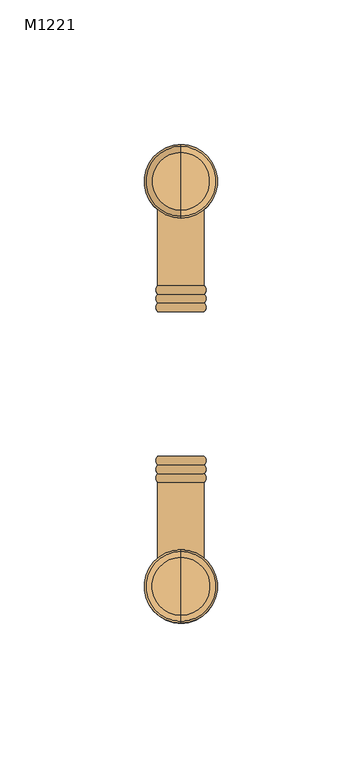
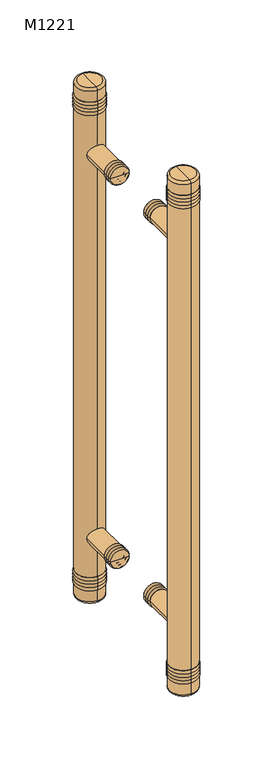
"""IFC4 building model written with IfcOpenShell, lengths in millimetres: door geometry, 双面嵌板木门 2 : M1221."""

from ifc_helpers import new_model, si_unit, point, frame, origin, place, context, project, spatial, circle_curve, ellipse_curve, trimmed, source, transform, mapped, element, save
from ifc_brep_helpers import plane_surface, cylinder_surface, revolved_surface, advanced_brep


def m1221_b3a166ca(model_context):
    return source(origin(), model_context, "Body", "AdvancedBrep", [
        advanced_brep(
        [(-80.0, 100.0, 1075.0), (-88.0, 100.0, 1075.0), (-72.0, 100.0, 1075.0), (-88.0, 109.0, 1075.0), (-80.0, 109.0, 1075.0), (-72.0, 109.0, 1075.0), (-88.0, 106.0, 1075.0), (-72.0, 106.0, 1075.0), (-88.0, 103.0, 1075.0), (-72.0, 103.0, 1075.0)],
        [
            (0, 1),
            (1, 2, circle_curve(frame((-80.0, 100.0, 1075.0), z_axis=(0.0, -1.0, 0.0), x_axis=(1.0, 0.0, 0.0)), 8.0)),
            (2, 0),
            (2, 1, circle_curve(frame((-80.0, 100.0, 1075.0), z_axis=(0.0, -1.0, 0.0), x_axis=(1.0, 0.0, 0.0)), 8.0)),
            (3, 4),
            (4, 5),
            (5, 3, circle_curve(frame((-80.0, 109.0, 1075.0), z_axis=(0.0, 1.0, 0.0), x_axis=(1.0, 0.0, 0.0)), 8.0)),
            (3, 5, circle_curve(frame((-80.0, 109.0, 1075.0), z_axis=(0.0, 1.0, 0.0), x_axis=(1.0, 0.0, 0.0)), 8.0)),
            (6, 3, circle_curve(frame((-86.6771243, 107.5, 1075.0), z_axis=(0.0, 0.0, -1.0), x_axis=(-1.0, 0.0, 0.0)), 2.0)),
            (5, 7, circle_curve(frame((-73.3228757, 107.5, 1075.0), z_axis=(0.0, 0.0, -1.0), x_axis=(1.0, 0.0, 0.0)), 2.0)),
            (7, 6, circle_curve(frame((-80.0, 106.0, 1075.0), z_axis=(0.0, 1.0, 0.0), x_axis=(1.0, 0.0, 0.0)), 8.0)),
            (6, 7, circle_curve(frame((-80.0, 106.0, 1075.0), z_axis=(0.0, 1.0, 0.0), x_axis=(1.0, 0.0, 0.0)), 8.0)),
            (8, 6, circle_curve(frame((-86.6771243, 104.5, 1075.0), z_axis=(0.0, 0.0, -1.0), x_axis=(-1.0, 0.0, 0.0)), 2.0)),
            (7, 9, circle_curve(frame((-73.3228757, 104.5, 1075.0), z_axis=(0.0, 0.0, -1.0), x_axis=(1.0, 0.0, 0.0)), 2.0)),
            (9, 8, circle_curve(frame((-80.0, 103.0, 1075.0), z_axis=(0.0, 1.0, 0.0), x_axis=(1.0, 0.0, 0.0)), 8.0)),
            (8, 9, circle_curve(frame((-80.0, 103.0, 1075.0), z_axis=(0.0, 1.0, 0.0), x_axis=(1.0, 0.0, 0.0)), 8.0)),
            (1, 8, circle_curve(frame((-86.6771243, 101.5, 1075.0), z_axis=(0.0, 0.0, -1.0), x_axis=(-1.0, 0.0, 0.0)), 2.0)),
            (9, 2, circle_curve(frame((-73.3228757, 101.5, 1075.0), z_axis=(0.0, 0.0, -1.0), x_axis=(1.0, 0.0, 0.0)), 2.0)),
        ],
        [
            plane_surface(frame((-80.0, 100.0, 1075.0), z_axis=(0.0, -1.0, 0.0), x_axis=(1.0, 0.0, 0.0))),
            plane_surface(frame((-80.0, 109.0, 1075.0), z_axis=(0.0, 1.0, 0.0), x_axis=(1.0, 0.0, 0.0))),
            revolved_surface(trimmed(ellipse_curve(frame((-73.3228757, 107.5, 1075.0), z_axis=(0.0, 0.0, -1.0), x_axis=(1.0, 0.0, 0.0)), 2.0, 2.0), [point((-72.0, 109.0, 1075.0))], [point((-72.0, 106.0, 1075.0))], True, "CARTESIAN"), (-80.0, -40.0, 1075.0), (0.0, -1.0, 0.0)),
            revolved_surface(trimmed(ellipse_curve(frame((-73.3228757, 104.5, 1075.0), z_axis=(0.0, 0.0, -1.0), x_axis=(1.0, 0.0, 0.0)), 2.0, 2.0), [point((-72.0, 106.0, 1075.0))], [point((-72.0, 103.0, 1075.0))], True, "CARTESIAN"), (-80.0, -40.0, 1075.0), (0.0, -1.0, 0.0)),
            revolved_surface(trimmed(ellipse_curve(frame((-73.3228757, 101.5, 1075.0), z_axis=(0.0, 0.0, -1.0), x_axis=(1.0, 0.0, 0.0)), 2.0, 2.0), [point((-72.0, 103.0, 1075.0))], [point((-72.0, 100.0, 1075.0))], True, "CARTESIAN"), (-80.0, -40.0, 1075.0), (0.0, -1.0, 0.0)),
        ],
        [
            (0, [[1, 2, 3]]),
            (0, [[-3, 4, -1]]),
            (1, [[5, 6, 7]]),
            (1, [[-6, -5, 8]]),
            (2, [[9, -7, 10, 11]]),
            (2, [[-10, -8, -9, 12]]),
            (3, [[13, -11, 14, 15]]),
            (3, [[-14, -12, -13, 16]]),
            (4, [[17, -15, 18, -2]]),
            (4, [[-18, -16, -17, -4]]),
        ],
    ),
        advanced_brep(
        [(-88.0, 47.0, 1075.0), (-88.0, 50.0, 1075.0), (-72.0, 50.0, 1075.0), (-72.0, 47.0, 1075.0), (-88.0, 44.0, 1075.0), (-72.0, 44.0, 1075.0), (-88.0, 41.0, 1075.0), (-72.0, 41.0, 1075.0), (-80.0, 41.0, 1075.0), (-80.0, 50.0, 1075.0)],
        [
            (0, 1, circle_curve(frame((-86.6771243, 48.5, 1075.0), z_axis=(0.0, 0.0, -1.0), x_axis=(-1.0, 0.0, 0.0)), 2.0)),
            (1, 2, circle_curve(frame((-80.0, 50.0, 1075.0), z_axis=(0.0, -1.0, 0.0), x_axis=(1.0, 0.0, 0.0)), 8.0)),
            (2, 3, circle_curve(frame((-73.3228757, 48.5, 1075.0), z_axis=(0.0, 0.0, -1.0), x_axis=(1.0, 0.0, 0.0)), 2.0)),
            (3, 0, circle_curve(frame((-80.0, 47.0, 1075.0), z_axis=(0.0, 1.0, 0.0), x_axis=(1.0, 0.0, 0.0)), 8.0)),
            (2, 1, circle_curve(frame((-80.0, 50.0, 1075.0), z_axis=(0.0, -1.0, 0.0), x_axis=(1.0, 0.0, 0.0)), 8.0)),
            (0, 3, circle_curve(frame((-80.0, 47.0, 1075.0), z_axis=(0.0, 1.0, 0.0), x_axis=(1.0, 0.0, 0.0)), 8.0)),
            (4, 0, circle_curve(frame((-86.6771243, 45.5, 1075.0), z_axis=(0.0, 0.0, -1.0), x_axis=(-1.0, 0.0, 0.0)), 2.0)),
            (3, 5, circle_curve(frame((-73.3228757, 45.5, 1075.0), z_axis=(0.0, 0.0, -1.0), x_axis=(1.0, 0.0, 0.0)), 2.0)),
            (5, 4, circle_curve(frame((-80.0, 44.0, 1075.0), z_axis=(0.0, 1.0, 0.0), x_axis=(1.0, 0.0, 0.0)), 8.0)),
            (4, 5, circle_curve(frame((-80.0, 44.0, 1075.0), z_axis=(0.0, 1.0, 0.0), x_axis=(1.0, 0.0, 0.0)), 8.0)),
            (6, 4, circle_curve(frame((-86.6771243, 42.5, 1075.0), z_axis=(0.0, 0.0, -1.0), x_axis=(-1.0, 0.0, 0.0)), 2.0)),
            (5, 7, circle_curve(frame((-73.3228757, 42.5, 1075.0), z_axis=(0.0, 0.0, -1.0), x_axis=(1.0, 0.0, 0.0)), 2.0)),
            (7, 6, circle_curve(frame((-80.0, 41.0, 1075.0), z_axis=(0.0, 1.0, 0.0), x_axis=(1.0, 0.0, 0.0)), 8.0)),
            (6, 7, circle_curve(frame((-80.0, 41.0, 1075.0), z_axis=(0.0, 1.0, 0.0), x_axis=(1.0, 0.0, 0.0)), 8.0)),
            (8, 6),
            (7, 8),
            (1, 9),
            (9, 2),
        ],
        [
            revolved_surface(trimmed(ellipse_curve(frame((-73.3228757, 48.5, 1075.0), z_axis=(0.0, 0.0, -1.0), x_axis=(1.0, 0.0, 0.0)), 2.0, 2.0), [point((-72.0, 50.0, 1075.0))], [point((-72.0, 47.0, 1075.0))], True, "CARTESIAN"), (-80.0, -40.0, 1075.0), (0.0, -1.0, 0.0)),
            revolved_surface(trimmed(ellipse_curve(frame((-73.3228757, 45.5, 1075.0), z_axis=(0.0, 0.0, -1.0), x_axis=(1.0, 0.0, 0.0)), 2.0, 2.0), [point((-72.0, 47.0, 1075.0))], [point((-72.0, 44.0, 1075.0))], True, "CARTESIAN"), (-80.0, -40.0, 1075.0), (0.0, -1.0, 0.0)),
            revolved_surface(trimmed(ellipse_curve(frame((-73.3228757, 42.5, 1075.0), z_axis=(0.0, 0.0, -1.0), x_axis=(1.0, 0.0, 0.0)), 2.0, 2.0), [point((-72.0, 44.0, 1075.0))], [point((-72.0, 41.0, 1075.0))], True, "CARTESIAN"), (-80.0, -40.0, 1075.0), (0.0, -1.0, 0.0)),
            plane_surface(frame((-80.0, 41.0, 1075.0), z_axis=(0.0, -1.0, 0.0), x_axis=(1.0, 0.0, 0.0))),
            plane_surface(frame((-80.0, 50.0, 1075.0), z_axis=(0.0, 1.0, 0.0), x_axis=(1.0, 0.0, 0.0))),
        ],
        [
            (0, [[1, 2, 3, 4]]),
            (0, [[-3, 5, -1, 6]]),
            (1, [[7, -4, 8, 9]]),
            (1, [[-8, -6, -7, 10]]),
            (2, [[11, -9, 12, 13]]),
            (2, [[-12, -10, -11, 14]]),
            (3, [[15, -13, 16]]),
            (3, [[-16, -14, -15]]),
            (4, [[17, 18, -2]]),
            (4, [[-18, -17, -5]]),
        ],
    ),
        advanced_brep(
        [(-80.0, 100.0, 725.0), (-88.0, 100.0, 725.0), (-72.0, 100.0, 725.0), (-88.0, 109.0, 725.0), (-80.0, 109.0, 725.0), (-72.0, 109.0, 725.0), (-88.0, 106.0, 725.0), (-72.0, 106.0, 725.0), (-88.0, 103.0, 725.0), (-72.0, 103.0, 725.0)],
        [
            (0, 1),
            (1, 2, circle_curve(frame((-80.0, 100.0, 725.0), z_axis=(0.0, -1.0, 0.0), x_axis=(1.0, 0.0, 0.0)), 8.0)),
            (2, 0),
            (2, 1, circle_curve(frame((-80.0, 100.0, 725.0), z_axis=(0.0, -1.0, 0.0), x_axis=(1.0, 0.0, 0.0)), 8.0)),
            (3, 4),
            (4, 5),
            (5, 3, circle_curve(frame((-80.0, 109.0, 725.0), z_axis=(0.0, 1.0, 0.0), x_axis=(1.0, 0.0, 0.0)), 8.0)),
            (3, 5, circle_curve(frame((-80.0, 109.0, 725.0), z_axis=(0.0, 1.0, 0.0), x_axis=(1.0, 0.0, 0.0)), 8.0)),
            (6, 3, circle_curve(frame((-86.6771243, 107.5, 725.0), z_axis=(0.0, 0.0, -1.0), x_axis=(-1.0, 0.0, 0.0)), 2.0)),
            (5, 7, circle_curve(frame((-73.3228757, 107.5, 725.0), z_axis=(0.0, 0.0, -1.0), x_axis=(1.0, 0.0, 0.0)), 2.0)),
            (7, 6, circle_curve(frame((-80.0, 106.0, 725.0), z_axis=(0.0, 1.0, 0.0), x_axis=(1.0, 0.0, 0.0)), 8.0)),
            (6, 7, circle_curve(frame((-80.0, 106.0, 725.0), z_axis=(0.0, 1.0, 0.0), x_axis=(1.0, 0.0, 0.0)), 8.0)),
            (8, 6, circle_curve(frame((-86.6771243, 104.5, 725.0), z_axis=(0.0, 0.0, -1.0), x_axis=(-1.0, 0.0, 0.0)), 2.0)),
            (7, 9, circle_curve(frame((-73.3228757, 104.5, 725.0), z_axis=(0.0, 0.0, -1.0), x_axis=(1.0, 0.0, 0.0)), 2.0)),
            (9, 8, circle_curve(frame((-80.0, 103.0, 725.0), z_axis=(0.0, 1.0, 0.0), x_axis=(1.0, 0.0, 0.0)), 8.0)),
            (8, 9, circle_curve(frame((-80.0, 103.0, 725.0), z_axis=(0.0, 1.0, 0.0), x_axis=(1.0, 0.0, 0.0)), 8.0)),
            (1, 8, circle_curve(frame((-86.6771243, 101.5, 725.0), z_axis=(0.0, 0.0, -1.0), x_axis=(-1.0, 0.0, 0.0)), 2.0)),
            (9, 2, circle_curve(frame((-73.3228757, 101.5, 725.0), z_axis=(0.0, 0.0, -1.0), x_axis=(1.0, 0.0, 0.0)), 2.0)),
        ],
        [
            plane_surface(frame((-80.0, 100.0, 725.0), z_axis=(0.0, -1.0, 0.0), x_axis=(1.0, 0.0, 0.0))),
            plane_surface(frame((-80.0, 109.0, 725.0), z_axis=(0.0, 1.0, 0.0), x_axis=(1.0, 0.0, 0.0))),
            revolved_surface(trimmed(ellipse_curve(frame((-73.3228757, 107.5, 725.0), z_axis=(0.0, 0.0, -1.0), x_axis=(1.0, 0.0, 0.0)), 2.0, 2.0), [point((-72.0, 109.0, 725.0))], [point((-72.0, 106.0, 725.0))], True, "CARTESIAN"), (-80.0, -40.0, 725.0), (0.0, -1.0, 0.0)),
            revolved_surface(trimmed(ellipse_curve(frame((-73.3228757, 104.5, 725.0), z_axis=(0.0, 0.0, -1.0), x_axis=(1.0, 0.0, 0.0)), 2.0, 2.0), [point((-72.0, 106.0, 725.0))], [point((-72.0, 103.0, 725.0))], True, "CARTESIAN"), (-80.0, -40.0, 725.0), (0.0, -1.0, 0.0)),
            revolved_surface(trimmed(ellipse_curve(frame((-73.3228757, 101.5, 725.0), z_axis=(0.0, 0.0, -1.0), x_axis=(1.0, 0.0, 0.0)), 2.0, 2.0), [point((-72.0, 103.0, 725.0))], [point((-72.0, 100.0, 725.0))], True, "CARTESIAN"), (-80.0, -40.0, 725.0), (0.0, -1.0, 0.0)),
        ],
        [
            (0, [[1, 2, 3]]),
            (0, [[-3, 4, -1]]),
            (1, [[5, 6, 7]]),
            (1, [[-6, -5, 8]]),
            (2, [[9, -7, 10, 11]]),
            (2, [[-10, -8, -9, 12]]),
            (3, [[13, -11, 14, 15]]),
            (3, [[-14, -12, -13, 16]]),
            (4, [[17, -15, 18, -2]]),
            (4, [[-18, -16, -17, -4]]),
        ],
    ),
        advanced_brep(
        [(-88.0, 47.0, 725.0), (-88.0, 50.0, 725.0), (-72.0, 50.0, 725.0), (-72.0, 47.0, 725.0), (-88.0, 44.0, 725.0), (-72.0, 44.0, 725.0), (-88.0, 41.0, 725.0), (-72.0, 41.0, 725.0), (-80.0, 41.0, 725.0), (-80.0, 50.0, 725.0)],
        [
            (0, 1, circle_curve(frame((-86.6771243, 48.5, 725.0), z_axis=(0.0, 0.0, -1.0), x_axis=(-1.0, 0.0, 0.0)), 2.0)),
            (1, 2, circle_curve(frame((-80.0, 50.0, 725.0), z_axis=(0.0, -1.0, 0.0), x_axis=(1.0, 0.0, 0.0)), 8.0)),
            (2, 3, circle_curve(frame((-73.3228757, 48.5, 725.0), z_axis=(0.0, 0.0, -1.0), x_axis=(1.0, 0.0, 0.0)), 2.0)),
            (3, 0, circle_curve(frame((-80.0, 47.0, 725.0), z_axis=(0.0, 1.0, 0.0), x_axis=(1.0, 0.0, 0.0)), 8.0)),
            (2, 1, circle_curve(frame((-80.0, 50.0, 725.0), z_axis=(0.0, -1.0, 0.0), x_axis=(1.0, 0.0, 0.0)), 8.0)),
            (0, 3, circle_curve(frame((-80.0, 47.0, 725.0), z_axis=(0.0, 1.0, 0.0), x_axis=(1.0, 0.0, 0.0)), 8.0)),
            (4, 0, circle_curve(frame((-86.6771243, 45.5, 725.0), z_axis=(0.0, 0.0, -1.0), x_axis=(-1.0, 0.0, 0.0)), 2.0)),
            (3, 5, circle_curve(frame((-73.3228757, 45.5, 725.0), z_axis=(0.0, 0.0, -1.0), x_axis=(1.0, 0.0, 0.0)), 2.0)),
            (5, 4, circle_curve(frame((-80.0, 44.0, 725.0), z_axis=(0.0, 1.0, 0.0), x_axis=(1.0, 0.0, 0.0)), 8.0)),
            (4, 5, circle_curve(frame((-80.0, 44.0, 725.0), z_axis=(0.0, 1.0, 0.0), x_axis=(1.0, 0.0, 0.0)), 8.0)),
            (6, 4, circle_curve(frame((-86.6771243, 42.5, 725.0), z_axis=(0.0, 0.0, -1.0), x_axis=(-1.0, 0.0, 0.0)), 2.0)),
            (5, 7, circle_curve(frame((-73.3228757, 42.5, 725.0), z_axis=(0.0, 0.0, -1.0), x_axis=(1.0, 0.0, 0.0)), 2.0)),
            (7, 6, circle_curve(frame((-80.0, 41.0, 725.0), z_axis=(0.0, 1.0, 0.0), x_axis=(1.0, 0.0, 0.0)), 8.0)),
            (6, 7, circle_curve(frame((-80.0, 41.0, 725.0), z_axis=(0.0, 1.0, 0.0), x_axis=(1.0, 0.0, 0.0)), 8.0)),
            (8, 6),
            (7, 8),
            (1, 9),
            (9, 2),
        ],
        [
            revolved_surface(trimmed(ellipse_curve(frame((-73.3228757, 48.5, 725.0), z_axis=(0.0, 0.0, -1.0), x_axis=(1.0, 0.0, 0.0)), 2.0, 2.0), [point((-72.0, 50.0, 725.0))], [point((-72.0, 47.0, 725.0))], True, "CARTESIAN"), (-80.0, -40.0, 725.0), (0.0, -1.0, 0.0)),
            revolved_surface(trimmed(ellipse_curve(frame((-73.3228757, 45.5, 725.0), z_axis=(0.0, 0.0, -1.0), x_axis=(1.0, 0.0, 0.0)), 2.0, 2.0), [point((-72.0, 47.0, 725.0))], [point((-72.0, 44.0, 725.0))], True, "CARTESIAN"), (-80.0, -40.0, 725.0), (0.0, -1.0, 0.0)),
            revolved_surface(trimmed(ellipse_curve(frame((-73.3228757, 42.5, 725.0), z_axis=(0.0, 0.0, -1.0), x_axis=(1.0, 0.0, 0.0)), 2.0, 2.0), [point((-72.0, 44.0, 725.0))], [point((-72.0, 41.0, 725.0))], True, "CARTESIAN"), (-80.0, -40.0, 725.0), (0.0, -1.0, 0.0)),
            plane_surface(frame((-80.0, 41.0, 725.0), z_axis=(0.0, -1.0, 0.0), x_axis=(1.0, 0.0, 0.0))),
            plane_surface(frame((-80.0, 50.0, 725.0), z_axis=(0.0, 1.0, 0.0), x_axis=(1.0, 0.0, 0.0))),
        ],
        [
            (0, [[1, 2, 3, 4]]),
            (0, [[-3, 5, -1, 6]]),
            (1, [[7, -4, 8, 9]]),
            (1, [[-8, -6, -7, 10]]),
            (2, [[11, -9, 12, 13]]),
            (2, [[-12, -10, -11, 14]]),
            (3, [[15, -13, 16]]),
            (3, [[-16, -14, -15]]),
            (4, [[17, 18, -2]]),
            (4, [[-18, -17, -5]]),
        ],
    ),
        advanced_brep(
        [(-80.0, 133.0, 1111.0), (-80.0, 145.0, 1111.0), (-80.0, 157.0, 1111.0), (-80.0, 133.0, 1114.0), (-80.0, 157.0, 1114.0), (-80.0, 133.0, 1117.0), (-80.0, 157.0, 1117.0), (-80.0, 133.0, 1120.0), (-80.0, 157.0, 1120.0), (-80.0, 133.0, 1123.0), (-80.0, 157.0, 1123.0), (-80.0, 145.0, 1123.0)],
        [
            (0, 1),
            (1, 2),
            (2, 0, circle_curve(frame((-80.0, 145.0, 1111.0), z_axis=(0.0, 0.0, -1.0), x_axis=(0.0, 1.0, 0.0)), 12.0)),
            (0, 2, circle_curve(frame((-80.0, 145.0, 1111.0), z_axis=(0.0, 0.0, -1.0), x_axis=(0.0, 1.0, 0.0)), 12.0)),
            (3, 0, circle_curve(frame((-80.0, 134.3228757, 1112.5), z_axis=(1.0, 0.0, 0.0), x_axis=(0.0, -1.0, 0.0)), 2.0)),
            (2, 4, circle_curve(frame((-80.0, 155.6771243, 1112.5), z_axis=(1.0, 0.0, 0.0), x_axis=(0.0, 1.0, 0.0)), 2.0)),
            (4, 3, circle_curve(frame((-80.0, 145.0, 1114.0), z_axis=(0.0, 0.0, -1.0), x_axis=(0.0, 1.0, 0.0)), 12.0)),
            (3, 4, circle_curve(frame((-80.0, 145.0, 1114.0), z_axis=(0.0, 0.0, -1.0), x_axis=(0.0, 1.0, 0.0)), 12.0)),
            (5, 3, circle_curve(frame((-80.0, 134.3228757, 1115.5), z_axis=(1.0, 0.0, 0.0), x_axis=(0.0, -1.0, 0.0)), 2.0)),
            (4, 6, circle_curve(frame((-80.0, 155.6771243, 1115.5), z_axis=(1.0, 0.0, 0.0), x_axis=(0.0, 1.0, 0.0)), 2.0)),
            (6, 5, circle_curve(frame((-80.0, 145.0, 1117.0), z_axis=(0.0, 0.0, -1.0), x_axis=(0.0, 1.0, 0.0)), 12.0)),
            (5, 6, circle_curve(frame((-80.0, 145.0, 1117.0), z_axis=(0.0, 0.0, -1.0), x_axis=(0.0, 1.0, 0.0)), 12.0)),
            (7, 5, circle_curve(frame((-80.0, 134.3228757, 1118.5), z_axis=(1.0, 0.0, 0.0), x_axis=(0.0, -1.0, 0.0)), 2.0)),
            (6, 8, circle_curve(frame((-80.0, 155.6771243, 1118.5), z_axis=(1.0, 0.0, 0.0), x_axis=(0.0, 1.0, 0.0)), 2.0)),
            (8, 7, circle_curve(frame((-80.0, 145.0, 1120.0), z_axis=(0.0, 0.0, -1.0), x_axis=(0.0, 1.0, 0.0)), 12.0)),
            (7, 8, circle_curve(frame((-80.0, 145.0, 1120.0), z_axis=(0.0, 0.0, -1.0), x_axis=(0.0, 1.0, 0.0)), 12.0)),
            (9, 7, circle_curve(frame((-80.0, 134.3228757, 1121.5), z_axis=(1.0, 0.0, 0.0), x_axis=(0.0, -1.0, 0.0)), 2.0)),
            (8, 10, circle_curve(frame((-80.0, 155.6771243, 1121.5), z_axis=(1.0, 0.0, 0.0), x_axis=(0.0, 1.0, 0.0)), 2.0)),
            (10, 9, circle_curve(frame((-80.0, 145.0, 1123.0), z_axis=(0.0, 0.0, -1.0), x_axis=(0.0, 1.0, 0.0)), 12.0)),
            (9, 10, circle_curve(frame((-80.0, 145.0, 1123.0), z_axis=(0.0, 0.0, -1.0), x_axis=(0.0, 1.0, 0.0)), 12.0)),
            (11, 9),
            (10, 11),
        ],
        [
            plane_surface(frame((-80.0, 145.0, 1111.0), z_axis=(0.0, 0.0, -1.0), x_axis=(0.0, 1.0, 0.0))),
            revolved_surface(trimmed(ellipse_curve(frame((-80.0, 155.6771243, 1112.5), z_axis=(1.0, 0.0, 0.0), x_axis=(0.0, 1.0, 0.0)), 2.0, 2.0), [point((-80.0, 157.0, 1111.0))], [point((-80.0, 157.0, 1114.0))], True, "CARTESIAN"), (-80.0, 145.0, 715.0), (0.0, 0.0, 1.0)),
            revolved_surface(trimmed(ellipse_curve(frame((-80.0, 155.6771243, 1115.5), z_axis=(1.0, 0.0, 0.0), x_axis=(0.0, 1.0, 0.0)), 2.0, 2.0), [point((-80.0, 157.0, 1114.0))], [point((-80.0, 157.0, 1117.0))], True, "CARTESIAN"), (-80.0, 145.0, 715.0), (0.0, 0.0, 1.0)),
            revolved_surface(trimmed(ellipse_curve(frame((-80.0, 155.6771243, 1118.5), z_axis=(1.0, 0.0, 0.0), x_axis=(0.0, 1.0, 0.0)), 2.0, 2.0), [point((-80.0, 157.0, 1117.0))], [point((-80.0, 157.0, 1120.0))], True, "CARTESIAN"), (-80.0, 145.0, 715.0), (0.0, 0.0, 1.0)),
            revolved_surface(trimmed(ellipse_curve(frame((-80.0, 155.6771243, 1121.5), z_axis=(1.0, 0.0, 0.0), x_axis=(0.0, 1.0, 0.0)), 2.0, 2.0), [point((-80.0, 157.0, 1120.0))], [point((-80.0, 157.0, 1123.0))], True, "CARTESIAN"), (-80.0, 145.0, 715.0), (0.0, 0.0, 1.0)),
            plane_surface(frame((-80.0, 145.0, 1123.0), z_axis=(0.0, 0.0, 1.0), x_axis=(0.0, 1.0, 0.0))),
        ],
        [
            (0, [[1, 2, 3]]),
            (0, [[-2, -1, 4]]),
            (1, [[5, -3, 6, 7]]),
            (1, [[-6, -4, -5, 8]]),
            (2, [[9, -7, 10, 11]]),
            (2, [[-10, -8, -9, 12]]),
            (3, [[13, -11, 14, 15]]),
            (3, [[-14, -12, -13, 16]]),
            (4, [[17, -15, 18, 19]]),
            (4, [[-18, -16, -17, 20]]),
            (5, [[21, -19, 22]]),
            (5, [[-22, -20, -21]]),
        ],
    ),
        advanced_brep(
        [(-80.0, 133.0, 677.0), (-80.0, 145.0, 677.0), (-80.0, 157.0, 677.0), (-80.0, 133.0, 680.0), (-80.0, 157.0, 680.0), (-80.0, 133.0, 683.0), (-80.0, 157.0, 683.0), (-80.0, 133.0, 686.0), (-80.0, 157.0, 686.0), (-80.0, 133.0, 689.0), (-80.0, 157.0, 689.0), (-80.0, 145.0, 689.0)],
        [
            (0, 1),
            (1, 2),
            (2, 0, circle_curve(frame((-80.0, 145.0, 677.0), z_axis=(0.0, 0.0, -1.0), x_axis=(0.0, 1.0, 0.0)), 12.0)),
            (0, 2, circle_curve(frame((-80.0, 145.0, 677.0), z_axis=(0.0, 0.0, -1.0), x_axis=(0.0, 1.0, 0.0)), 12.0)),
            (3, 0, circle_curve(frame((-80.0, 134.3228757, 678.5), z_axis=(1.0, 0.0, 0.0), x_axis=(0.0, -1.0, 0.0)), 2.0)),
            (2, 4, circle_curve(frame((-80.0, 155.6771243, 678.5), z_axis=(1.0, 0.0, 0.0), x_axis=(0.0, 1.0, 0.0)), 2.0)),
            (4, 3, circle_curve(frame((-80.0, 145.0, 680.0), z_axis=(0.0, 0.0, -1.0), x_axis=(0.0, 1.0, 0.0)), 12.0)),
            (3, 4, circle_curve(frame((-80.0, 145.0, 680.0), z_axis=(0.0, 0.0, -1.0), x_axis=(0.0, 1.0, 0.0)), 12.0)),
            (5, 3, circle_curve(frame((-80.0, 134.3228757, 681.5), z_axis=(1.0, 0.0, 0.0), x_axis=(0.0, -1.0, 0.0)), 2.0)),
            (4, 6, circle_curve(frame((-80.0, 155.6771243, 681.5), z_axis=(1.0, 0.0, 0.0), x_axis=(0.0, 1.0, 0.0)), 2.0)),
            (6, 5, circle_curve(frame((-80.0, 145.0, 683.0), z_axis=(0.0, 0.0, -1.0), x_axis=(0.0, 1.0, 0.0)), 12.0)),
            (5, 6, circle_curve(frame((-80.0, 145.0, 683.0), z_axis=(0.0, 0.0, -1.0), x_axis=(0.0, 1.0, 0.0)), 12.0)),
            (7, 5, circle_curve(frame((-80.0, 134.3228757, 684.5), z_axis=(1.0, 0.0, 0.0), x_axis=(0.0, -1.0, 0.0)), 2.0)),
            (6, 8, circle_curve(frame((-80.0, 155.6771243, 684.5), z_axis=(1.0, 0.0, 0.0), x_axis=(0.0, 1.0, 0.0)), 2.0)),
            (8, 7, circle_curve(frame((-80.0, 145.0, 686.0), z_axis=(0.0, 0.0, -1.0), x_axis=(0.0, 1.0, 0.0)), 12.0)),
            (7, 8, circle_curve(frame((-80.0, 145.0, 686.0), z_axis=(0.0, 0.0, -1.0), x_axis=(0.0, 1.0, 0.0)), 12.0)),
            (9, 7, circle_curve(frame((-80.0, 134.3228757, 687.5), z_axis=(1.0, 0.0, 0.0), x_axis=(0.0, -1.0, 0.0)), 2.0)),
            (8, 10, circle_curve(frame((-80.0, 155.6771243, 687.5), z_axis=(1.0, 0.0, 0.0), x_axis=(0.0, 1.0, 0.0)), 2.0)),
            (10, 9, circle_curve(frame((-80.0, 145.0, 689.0), z_axis=(0.0, 0.0, -1.0), x_axis=(0.0, 1.0, 0.0)), 12.0)),
            (9, 10, circle_curve(frame((-80.0, 145.0, 689.0), z_axis=(0.0, 0.0, -1.0), x_axis=(0.0, 1.0, 0.0)), 12.0)),
            (11, 9),
            (10, 11),
        ],
        [
            plane_surface(frame((-80.0, 145.0, 677.0), z_axis=(0.0, 0.0, -1.0), x_axis=(0.0, 1.0, 0.0))),
            revolved_surface(trimmed(ellipse_curve(frame((-80.0, 155.6771243, 678.5), z_axis=(1.0, 0.0, 0.0), x_axis=(0.0, 1.0, 0.0)), 2.0, 2.0), [point((-80.0, 157.0, 677.0))], [point((-80.0, 157.0, 680.0))], True, "CARTESIAN"), (-80.0, 145.0, 715.0), (0.0, 0.0, 1.0)),
            revolved_surface(trimmed(ellipse_curve(frame((-80.0, 155.6771243, 681.5), z_axis=(1.0, 0.0, 0.0), x_axis=(0.0, 1.0, 0.0)), 2.0, 2.0), [point((-80.0, 157.0, 680.0))], [point((-80.0, 157.0, 683.0))], True, "CARTESIAN"), (-80.0, 145.0, 715.0), (0.0, 0.0, 1.0)),
            revolved_surface(trimmed(ellipse_curve(frame((-80.0, 155.6771243, 684.5), z_axis=(1.0, 0.0, 0.0), x_axis=(0.0, 1.0, 0.0)), 2.0, 2.0), [point((-80.0, 157.0, 683.0))], [point((-80.0, 157.0, 686.0))], True, "CARTESIAN"), (-80.0, 145.0, 715.0), (0.0, 0.0, 1.0)),
            revolved_surface(trimmed(ellipse_curve(frame((-80.0, 155.6771243, 687.5), z_axis=(1.0, 0.0, 0.0), x_axis=(0.0, 1.0, 0.0)), 2.0, 2.0), [point((-80.0, 157.0, 686.0))], [point((-80.0, 157.0, 689.0))], True, "CARTESIAN"), (-80.0, 145.0, 715.0), (0.0, 0.0, 1.0)),
            plane_surface(frame((-80.0, 145.0, 689.0), z_axis=(0.0, 0.0, 1.0), x_axis=(0.0, 1.0, 0.0))),
        ],
        [
            (0, [[1, 2, 3]]),
            (0, [[-2, -1, 4]]),
            (1, [[5, -3, 6, 7]]),
            (1, [[-6, -4, -5, 8]]),
            (2, [[9, -7, 10, 11]]),
            (2, [[-10, -8, -9, 12]]),
            (3, [[13, -11, 14, 15]]),
            (3, [[-14, -12, -13, 16]]),
            (4, [[17, -15, 18, 19]]),
            (4, [[-18, -16, -17, 20]]),
            (5, [[21, -19, 22]]),
            (5, [[-22, -20, -21]]),
        ],
    ),
        advanced_brep(
        [(-80.0, 17.0, 1119.8958565), (-80.0, 17.0, 1122.8958565), (-80.0, -7.0, 1122.8958565), (-80.0, -7.0, 1119.8958565), (-80.0, 17.0, 1116.8958565), (-80.0, -7.0, 1116.8958565), (-80.0, 17.0, 1113.8958565), (-80.0, -7.0, 1113.8958565), (-80.0, 17.0, 1110.8958565), (-80.0, -7.0, 1110.8958565), (-80.0, 5.0, 1110.8958565), (-80.0, 5.0, 1122.8958565)],
        [
            (0, 1, circle_curve(frame((-80.0, 15.6771243, 1121.3958565), z_axis=(1.0, 0.0, 0.0), x_axis=(0.0, -1.0, 0.0)), 2.0)),
            (1, 2, circle_curve(frame((-80.0, 5.0, 1122.8958565), z_axis=(0.0, 0.0, -1.0), x_axis=(0.0, -1.0, 0.0)), 12.0)),
            (2, 3, circle_curve(frame((-80.0, -5.6771243, 1121.3958565), z_axis=(1.0, 0.0, 0.0), x_axis=(0.0, 1.0, 0.0)), 2.0)),
            (3, 0, circle_curve(frame((-80.0, 5.0, 1119.8958565), z_axis=(0.0, 0.0, 1.0), x_axis=(0.0, -1.0, 0.0)), 12.0)),
            (2, 1, circle_curve(frame((-80.0, 5.0, 1122.8958565), z_axis=(0.0, 0.0, -1.0), x_axis=(0.0, -1.0, 0.0)), 12.0)),
            (0, 3, circle_curve(frame((-80.0, 5.0, 1119.8958565), z_axis=(0.0, 0.0, 1.0), x_axis=(0.0, -1.0, 0.0)), 12.0)),
            (4, 0, circle_curve(frame((-80.0, 15.6771243, 1118.3958565), z_axis=(1.0, 0.0, 0.0), x_axis=(0.0, -1.0, 0.0)), 2.0)),
            (3, 5, circle_curve(frame((-80.0, -5.6771243, 1118.3958565), z_axis=(1.0, 0.0, 0.0), x_axis=(0.0, 1.0, 0.0)), 2.0)),
            (5, 4, circle_curve(frame((-80.0, 5.0, 1116.8958565), z_axis=(0.0, 0.0, 1.0), x_axis=(0.0, -1.0, 0.0)), 12.0)),
            (4, 5, circle_curve(frame((-80.0, 5.0, 1116.8958565), z_axis=(0.0, 0.0, 1.0), x_axis=(0.0, -1.0, 0.0)), 12.0)),
            (6, 4, circle_curve(frame((-80.0, 15.6771243, 1115.3958565), z_axis=(1.0, 0.0, 0.0), x_axis=(0.0, -1.0, 0.0)), 2.0)),
            (5, 7, circle_curve(frame((-80.0, -5.6771243, 1115.3958565), z_axis=(1.0, 0.0, 0.0), x_axis=(0.0, 1.0, 0.0)), 2.0)),
            (7, 6, circle_curve(frame((-80.0, 5.0, 1113.8958565), z_axis=(0.0, 0.0, 1.0), x_axis=(0.0, -1.0, 0.0)), 12.0)),
            (6, 7, circle_curve(frame((-80.0, 5.0, 1113.8958565), z_axis=(0.0, 0.0, 1.0), x_axis=(0.0, -1.0, 0.0)), 12.0)),
            (8, 6, circle_curve(frame((-80.0, 15.6771243, 1112.3958565), z_axis=(1.0, 0.0, 0.0), x_axis=(0.0, -1.0, 0.0)), 2.0)),
            (7, 9, circle_curve(frame((-80.0, -5.6771243, 1112.3958565), z_axis=(1.0, 0.0, 0.0), x_axis=(0.0, 1.0, 0.0)), 2.0)),
            (9, 8, circle_curve(frame((-80.0, 5.0, 1110.8958565), z_axis=(0.0, 0.0, 1.0), x_axis=(0.0, -1.0, 0.0)), 12.0)),
            (8, 9, circle_curve(frame((-80.0, 5.0, 1110.8958565), z_axis=(0.0, 0.0, 1.0), x_axis=(0.0, -1.0, 0.0)), 12.0)),
            (10, 8),
            (9, 10),
            (1, 11),
            (11, 2),
        ],
        [
            revolved_surface(trimmed(ellipse_curve(frame((-80.0, -5.6771243, 1121.3958565), z_axis=(1.0, 0.0, 0.0), x_axis=(0.0, 1.0, 0.0)), 2.0, 2.0), [point((-80.0, -7.0, 1122.8958565))], [point((-80.0, -7.0, 1119.8958565))], True, "CARTESIAN"), (-80.0, 5.0, 715.0), (0.0, 0.0, -1.0)),
            revolved_surface(trimmed(ellipse_curve(frame((-80.0, -5.6771243, 1118.3958565), z_axis=(1.0, 0.0, 0.0), x_axis=(0.0, 1.0, 0.0)), 2.0, 2.0), [point((-80.0, -7.0, 1119.8958565))], [point((-80.0, -7.0, 1116.8958565))], True, "CARTESIAN"), (-80.0, 5.0, 715.0), (0.0, 0.0, -1.0)),
            revolved_surface(trimmed(ellipse_curve(frame((-80.0, -5.6771243, 1115.3958565), z_axis=(1.0, 0.0, 0.0), x_axis=(0.0, 1.0, 0.0)), 2.0, 2.0), [point((-80.0, -7.0, 1116.8958565))], [point((-80.0, -7.0, 1113.8958565))], True, "CARTESIAN"), (-80.0, 5.0, 715.0), (0.0, 0.0, -1.0)),
            revolved_surface(trimmed(ellipse_curve(frame((-80.0, -5.6771243, 1112.3958565), z_axis=(1.0, 0.0, 0.0), x_axis=(0.0, 1.0, 0.0)), 2.0, 2.0), [point((-80.0, -7.0, 1113.8958565))], [point((-80.0, -7.0, 1110.8958565))], True, "CARTESIAN"), (-80.0, 5.0, 715.0), (0.0, 0.0, -1.0)),
            plane_surface(frame((-80.0, 5.0, 1110.8958565), z_axis=(0.0, 0.0, -1.0), x_axis=(0.0, -1.0, 0.0))),
            plane_surface(frame((-80.0, 5.0, 1122.8958565), z_axis=(0.0, 0.0, 1.0), x_axis=(0.0, -1.0, 0.0))),
        ],
        [
            (0, [[1, 2, 3, 4]]),
            (0, [[-3, 5, -1, 6]]),
            (1, [[7, -4, 8, 9]]),
            (1, [[-8, -6, -7, 10]]),
            (2, [[11, -9, 12, 13]]),
            (2, [[-12, -10, -11, 14]]),
            (3, [[15, -13, 16, 17]]),
            (3, [[-16, -14, -15, 18]]),
            (4, [[19, -17, 20]]),
            (4, [[-20, -18, -19]]),
            (5, [[21, 22, -2]]),
            (5, [[-22, -21, -5]]),
        ],
    ),
        advanced_brep(
        [(-80.0, 17.0, 689.0), (-80.0, 5.0, 689.0), (-80.0, -7.0, 689.0), (-80.0, 17.0, 686.0), (-80.0, -7.0, 686.0), (-80.0, 17.0, 683.0), (-80.0, -7.0, 683.0), (-80.0, 17.0, 680.0), (-80.0, -7.0, 680.0), (-80.0, 17.0, 677.0), (-80.0, -7.0, 677.0), (-80.0, 5.0, 677.0)],
        [
            (0, 1),
            (1, 2),
            (2, 0, circle_curve(frame((-80.0, 5.0, 689.0), z_axis=(0.0, 0.0, 1.0), x_axis=(0.0, -1.0, 0.0)), 12.0)),
            (0, 2, circle_curve(frame((-80.0, 5.0, 689.0), z_axis=(0.0, 0.0, 1.0), x_axis=(0.0, -1.0, 0.0)), 12.0)),
            (3, 0, circle_curve(frame((-80.0, 15.6771243, 687.5), z_axis=(1.0, 0.0, 0.0), x_axis=(0.0, -1.0, 0.0)), 2.0)),
            (2, 4, circle_curve(frame((-80.0, -5.6771243, 687.5), z_axis=(1.0, 0.0, 0.0), x_axis=(0.0, 1.0, 0.0)), 2.0)),
            (4, 3, circle_curve(frame((-80.0, 5.0, 686.0), z_axis=(0.0, 0.0, 1.0), x_axis=(0.0, -1.0, 0.0)), 12.0)),
            (3, 4, circle_curve(frame((-80.0, 5.0, 686.0), z_axis=(0.0, 0.0, 1.0), x_axis=(0.0, -1.0, 0.0)), 12.0)),
            (5, 3, circle_curve(frame((-80.0, 15.6771243, 684.5), z_axis=(1.0, 0.0, 0.0), x_axis=(0.0, -1.0, 0.0)), 2.0)),
            (4, 6, circle_curve(frame((-80.0, -5.6771243, 684.5), z_axis=(1.0, 0.0, 0.0), x_axis=(0.0, 1.0, 0.0)), 2.0)),
            (6, 5, circle_curve(frame((-80.0, 5.0, 683.0), z_axis=(0.0, 0.0, 1.0), x_axis=(0.0, -1.0, 0.0)), 12.0)),
            (5, 6, circle_curve(frame((-80.0, 5.0, 683.0), z_axis=(0.0, 0.0, 1.0), x_axis=(0.0, -1.0, 0.0)), 12.0)),
            (7, 5, circle_curve(frame((-80.0, 15.6771243, 681.5), z_axis=(1.0, 0.0, 0.0), x_axis=(0.0, -1.0, 0.0)), 2.0)),
            (6, 8, circle_curve(frame((-80.0, -5.6771243, 681.5), z_axis=(1.0, 0.0, 0.0), x_axis=(0.0, 1.0, 0.0)), 2.0)),
            (8, 7, circle_curve(frame((-80.0, 5.0, 680.0), z_axis=(0.0, 0.0, 1.0), x_axis=(0.0, -1.0, 0.0)), 12.0)),
            (7, 8, circle_curve(frame((-80.0, 5.0, 680.0), z_axis=(0.0, 0.0, 1.0), x_axis=(0.0, -1.0, 0.0)), 12.0)),
            (9, 7, circle_curve(frame((-80.0, 15.6771243, 678.5), z_axis=(1.0, 0.0, 0.0), x_axis=(0.0, -1.0, 0.0)), 2.0)),
            (8, 10, circle_curve(frame((-80.0, -5.6771243, 678.5), z_axis=(1.0, 0.0, 0.0), x_axis=(0.0, 1.0, 0.0)), 2.0)),
            (10, 9, circle_curve(frame((-80.0, 5.0, 677.0), z_axis=(0.0, 0.0, 1.0), x_axis=(0.0, -1.0, 0.0)), 12.0)),
            (9, 10, circle_curve(frame((-80.0, 5.0, 677.0), z_axis=(0.0, 0.0, 1.0), x_axis=(0.0, -1.0, 0.0)), 12.0)),
            (11, 9),
            (10, 11),
        ],
        [
            plane_surface(frame((-80.0, 5.0, 689.0), z_axis=(0.0, 0.0, 1.0), x_axis=(0.0, -1.0, 0.0))),
            revolved_surface(trimmed(ellipse_curve(frame((-80.0, -5.6771243, 687.5), z_axis=(1.0, 0.0, 0.0), x_axis=(0.0, 1.0, 0.0)), 2.0, 2.0), [point((-80.0, -7.0, 689.0))], [point((-80.0, -7.0, 686.0))], True, "CARTESIAN"), (-80.0, 5.0, 715.0), (0.0, 0.0, -1.0)),
            revolved_surface(trimmed(ellipse_curve(frame((-80.0, -5.6771243, 684.5), z_axis=(1.0, 0.0, 0.0), x_axis=(0.0, 1.0, 0.0)), 2.0, 2.0), [point((-80.0, -7.0, 686.0))], [point((-80.0, -7.0, 683.0))], True, "CARTESIAN"), (-80.0, 5.0, 715.0), (0.0, 0.0, -1.0)),
            revolved_surface(trimmed(ellipse_curve(frame((-80.0, -5.6771243, 681.5), z_axis=(1.0, 0.0, 0.0), x_axis=(0.0, 1.0, 0.0)), 2.0, 2.0), [point((-80.0, -7.0, 683.0))], [point((-80.0, -7.0, 680.0))], True, "CARTESIAN"), (-80.0, 5.0, 715.0), (0.0, 0.0, -1.0)),
            revolved_surface(trimmed(ellipse_curve(frame((-80.0, -5.6771243, 678.5), z_axis=(1.0, 0.0, 0.0), x_axis=(0.0, 1.0, 0.0)), 2.0, 2.0), [point((-80.0, -7.0, 680.0))], [point((-80.0, -7.0, 677.0))], True, "CARTESIAN"), (-80.0, 5.0, 715.0), (0.0, 0.0, -1.0)),
            plane_surface(frame((-80.0, 5.0, 677.0), z_axis=(0.0, 0.0, -1.0), x_axis=(0.0, -1.0, 0.0))),
        ],
        [
            (0, [[1, 2, 3]]),
            (0, [[-2, -1, 4]]),
            (1, [[5, -3, 6, 7]]),
            (1, [[-6, -4, -5, 8]]),
            (2, [[9, -7, 10, 11]]),
            (2, [[-10, -8, -9, 12]]),
            (3, [[13, -11, 14, 15]]),
            (3, [[-14, -12, -13, 16]]),
            (4, [[17, -15, 18, 19]]),
            (4, [[-18, -16, -17, 20]]),
            (5, [[21, -19, 22]]),
            (5, [[-22, -20, -21]]),
        ],
    ),
        advanced_brep(
        [(-80.0, 133.0, 667.0), (-80.0, 135.0, 665.0), (-80.0, 155.0, 665.0), (-80.0, 157.0, 667.0), (-80.0, 133.0, 1133.0), (-80.0, 157.0, 1133.0), (-80.0, 135.0, 1135.0), (-80.0, 155.0, 1135.0), (-80.0, 145.0, 1135.0), (-80.0, 145.0, 665.0)],
        [
            (0, 1, circle_curve(frame((-80.0, 135.0, 667.0), z_axis=(1.0, 0.0, 0.0), x_axis=(0.0, -1.0, 0.0)), 2.0)),
            (1, 2, circle_curve(frame((-80.0, 145.0, 665.0), z_axis=(0.0, 0.0, 1.0), x_axis=(0.0, 1.0, 0.0)), 10.0)),
            (2, 3, circle_curve(frame((-80.0, 155.0, 667.0), z_axis=(1.0, 0.0, 0.0), x_axis=(0.0, 1.0, 0.0)), 2.0)),
            (3, 0, circle_curve(frame((-80.0, 145.0, 667.0), z_axis=(0.0, 0.0, -1.0), x_axis=(0.0, 1.0, 0.0)), 12.0)),
            (2, 1, circle_curve(frame((-80.0, 145.0, 665.0), z_axis=(0.0, 0.0, 1.0), x_axis=(0.0, 1.0, 0.0)), 10.0)),
            (0, 3, circle_curve(frame((-80.0, 145.0, 667.0), z_axis=(0.0, 0.0, -1.0), x_axis=(0.0, 1.0, 0.0)), 12.0)),
            (4, 0),
            (3, 5),
            (5, 4, circle_curve(frame((-80.0, 145.0, 1133.0), z_axis=(0.0, 0.0, -1.0), x_axis=(0.0, 1.0, 0.0)), 12.0)),
            (4, 5, circle_curve(frame((-80.0, 145.0, 1133.0), z_axis=(0.0, 0.0, -1.0), x_axis=(0.0, 1.0, 0.0)), 12.0)),
            (6, 4, circle_curve(frame((-80.0, 135.0, 1133.0), z_axis=(1.0, 0.0, 0.0), x_axis=(0.0, -1.0, 0.0)), 2.0)),
            (5, 7, circle_curve(frame((-80.0, 155.0, 1133.0), z_axis=(1.0, 0.0, 0.0), x_axis=(0.0, 1.0, 0.0)), 2.0)),
            (7, 6, circle_curve(frame((-80.0, 145.0, 1135.0), z_axis=(0.0, 0.0, -1.0), x_axis=(0.0, 1.0, 0.0)), 10.0)),
            (6, 7, circle_curve(frame((-80.0, 145.0, 1135.0), z_axis=(0.0, 0.0, -1.0), x_axis=(0.0, 1.0, 0.0)), 10.0)),
            (8, 6),
            (7, 8),
            (1, 9),
            (9, 2),
        ],
        [
            revolved_surface(trimmed(ellipse_curve(frame((-80.0, 155.0, 667.0), z_axis=(1.0, 0.0, 0.0), x_axis=(0.0, 1.0, 0.0)), 2.0, 2.0), [point((-80.0, 155.0, 665.0))], [point((-80.0, 157.0, 667.0))], True, "CARTESIAN"), (-80.0, 145.0, 715.0), (0.0, 0.0, 1.0)),
            cylinder_surface(frame((-80.0, 145.0, 715.0), z_axis=(0.0, 0.0, 1.0), x_axis=(0.0, 1.0, 0.0)), 12.0),
            revolved_surface(trimmed(ellipse_curve(frame((-80.0, 155.0, 1133.0), z_axis=(1.0, 0.0, 0.0), x_axis=(0.0, 1.0, 0.0)), 2.0, 2.0), [point((-80.0, 157.0, 1133.0))], [point((-80.0, 155.0, 1135.0))], True, "CARTESIAN"), (-80.0, 145.0, 715.0), (0.0, 0.0, 1.0)),
            plane_surface(frame((-80.0, 145.0, 1135.0), z_axis=(0.0, 0.0, 1.0), x_axis=(0.0, 1.0, 0.0))),
            plane_surface(frame((-80.0, 145.0, 665.0), z_axis=(0.0, 0.0, -1.0), x_axis=(0.0, 1.0, 0.0))),
        ],
        [
            (0, [[1, 2, 3, 4]]),
            (0, [[-3, 5, -1, 6]]),
            (1, [[7, -4, 8, 9]]),
            (1, [[-8, -6, -7, 10]]),
            (2, [[11, -9, 12, 13]]),
            (2, [[-12, -10, -11, 14]]),
            (3, [[15, -13, 16]]),
            (3, [[-16, -14, -15]]),
            (4, [[17, 18, -2]]),
            (4, [[-18, -17, -5]]),
        ],
    ),
        advanced_brep(
        [(-80.0, 5.0, 665.0), (-80.0, 15.0, 665.0), (-80.0, -5.0, 665.0), (-80.0, 15.0, 1135.0), (-80.0, 5.0, 1135.0), (-80.0, -5.0, 1135.0), (-80.0, 17.0, 1133.0), (-80.0, -7.0, 1133.0), (-80.0, 17.0, 667.0), (-80.0, -7.0, 667.0)],
        [
            (0, 1),
            (1, 2, circle_curve(frame((-80.0, 5.0, 665.0), z_axis=(0.0, 0.0, -1.0), x_axis=(0.0, -1.0, 0.0)), 10.0)),
            (2, 0),
            (2, 1, circle_curve(frame((-80.0, 5.0, 665.0), z_axis=(0.0, 0.0, -1.0), x_axis=(0.0, -1.0, 0.0)), 10.0)),
            (3, 4),
            (4, 5),
            (5, 3, circle_curve(frame((-80.0, 5.0, 1135.0), z_axis=(0.0, 0.0, 1.0), x_axis=(0.0, -1.0, 0.0)), 10.0)),
            (3, 5, circle_curve(frame((-80.0, 5.0, 1135.0), z_axis=(0.0, 0.0, 1.0), x_axis=(0.0, -1.0, 0.0)), 10.0)),
            (6, 3, circle_curve(frame((-80.0, 15.0, 1133.0), z_axis=(1.0, 0.0, 0.0), x_axis=(0.0, -1.0, 0.0)), 2.0)),
            (5, 7, circle_curve(frame((-80.0, -5.0, 1133.0), z_axis=(1.0, 0.0, 0.0), x_axis=(0.0, 1.0, 0.0)), 2.0)),
            (7, 6, circle_curve(frame((-80.0, 5.0, 1133.0), z_axis=(0.0, 0.0, 1.0), x_axis=(0.0, -1.0, 0.0)), 12.0)),
            (6, 7, circle_curve(frame((-80.0, 5.0, 1133.0), z_axis=(0.0, 0.0, 1.0), x_axis=(0.0, -1.0, 0.0)), 12.0)),
            (8, 6),
            (7, 9),
            (9, 8, circle_curve(frame((-80.0, 5.0, 667.0), z_axis=(0.0, 0.0, 1.0), x_axis=(0.0, -1.0, 0.0)), 12.0)),
            (8, 9, circle_curve(frame((-80.0, 5.0, 667.0), z_axis=(0.0, 0.0, 1.0), x_axis=(0.0, -1.0, 0.0)), 12.0)),
            (1, 8, circle_curve(frame((-80.0, 15.0, 667.0), z_axis=(1.0, 0.0, 0.0), x_axis=(0.0, -1.0, 0.0)), 2.0)),
            (9, 2, circle_curve(frame((-80.0, -5.0, 667.0), z_axis=(1.0, 0.0, 0.0), x_axis=(0.0, 1.0, 0.0)), 2.0)),
        ],
        [
            plane_surface(frame((-80.0, 5.0, 665.0), z_axis=(0.0, 0.0, -1.0), x_axis=(0.0, -1.0, 0.0))),
            plane_surface(frame((-80.0, 5.0, 1135.0), z_axis=(0.0, 0.0, 1.0), x_axis=(0.0, -1.0, 0.0))),
            revolved_surface(trimmed(ellipse_curve(frame((-80.0, -5.0, 1133.0), z_axis=(1.0, 0.0, 0.0), x_axis=(0.0, 1.0, 0.0)), 2.0, 2.0), [point((-80.0, -5.0, 1135.0))], [point((-80.0, -7.0, 1133.0))], True, "CARTESIAN"), (-80.0, 5.0, 715.0), (0.0, 0.0, -1.0)),
            cylinder_surface(frame((-80.0, 5.0, 715.0), z_axis=(0.0, 0.0, -1.0), x_axis=(0.0, -1.0, 0.0)), 12.0),
            revolved_surface(trimmed(ellipse_curve(frame((-80.0, -5.0, 667.0), z_axis=(1.0, 0.0, 0.0), x_axis=(0.0, 1.0, 0.0)), 2.0, 2.0), [point((-80.0, -7.0, 667.0))], [point((-80.0, -5.0, 665.0))], True, "CARTESIAN"), (-80.0, 5.0, 715.0), (0.0, 0.0, -1.0)),
        ],
        [
            (0, [[1, 2, 3]]),
            (0, [[-3, 4, -1]]),
            (1, [[5, 6, 7]]),
            (1, [[-6, -5, 8]]),
            (2, [[9, -7, 10, 11]]),
            (2, [[-10, -8, -9, 12]]),
            (3, [[13, -11, 14, 15]]),
            (3, [[-14, -12, -13, 16]]),
            (4, [[17, -15, 18, -2]]),
            (4, [[-18, -16, -17, -4]]),
        ],
    ),
        advanced_brep(
        [(-88.0, 5.0, 1075.0), (-88.0, 50.0, 1075.0), (-72.0, 50.0, 1075.0), (-72.0, 5.0, 1075.0), (-80.0, 5.0, 1075.0), (-80.0, 50.0, 1075.0)],
        [
            (0, 1),
            (1, 2, circle_curve(frame((-80.0, 50.0, 1075.0), z_axis=(0.0, -1.0, 0.0), x_axis=(1.0, 0.0, 0.0)), 8.0)),
            (2, 3),
            (3, 0, circle_curve(frame((-80.0, 5.0, 1075.0), z_axis=(0.0, 1.0, 0.0), x_axis=(1.0, 0.0, 0.0)), 8.0)),
            (2, 1, circle_curve(frame((-80.0, 50.0, 1075.0), z_axis=(0.0, -1.0, 0.0), x_axis=(1.0, 0.0, 0.0)), 8.0)),
            (0, 3, circle_curve(frame((-80.0, 5.0, 1075.0), z_axis=(0.0, 1.0, 0.0), x_axis=(1.0, 0.0, 0.0)), 8.0)),
            (4, 0),
            (3, 4),
            (1, 5),
            (5, 2),
        ],
        [
            cylinder_surface(frame((-80.0, -90.0, 1075.0), z_axis=(0.0, -1.0, 0.0), x_axis=(1.0, 0.0, 0.0)), 8.0),
            plane_surface(frame((-80.0, 5.0, 1075.0), z_axis=(0.0, -1.0, 0.0), x_axis=(1.0, 0.0, 0.0))),
            plane_surface(frame((-80.0, 50.0, 1075.0), z_axis=(0.0, 1.0, 0.0), x_axis=(1.0, 0.0, 0.0))),
        ],
        [
            (0, [[1, 2, 3, 4]]),
            (0, [[-3, 5, -1, 6]]),
            (1, [[7, -4, 8]]),
            (1, [[-8, -6, -7]]),
            (2, [[9, 10, -2]]),
            (2, [[-10, -9, -5]]),
        ],
    ),
        advanced_brep(
        [(-80.0, 100.0, 1075.0), (-88.0, 100.0, 1075.0), (-72.0, 100.0, 1075.0), (-88.0, 145.0, 1075.0), (-80.0, 145.0, 1075.0), (-72.0, 145.0, 1075.0)],
        [
            (0, 1),
            (1, 2, circle_curve(frame((-80.0, 100.0, 1075.0), z_axis=(0.0, -1.0, 0.0), x_axis=(1.0, 0.0, 0.0)), 8.0)),
            (2, 0),
            (2, 1, circle_curve(frame((-80.0, 100.0, 1075.0), z_axis=(0.0, -1.0, 0.0), x_axis=(1.0, 0.0, 0.0)), 8.0)),
            (3, 4),
            (4, 5),
            (5, 3, circle_curve(frame((-80.0, 145.0, 1075.0), z_axis=(0.0, 1.0, 0.0), x_axis=(1.0, 0.0, 0.0)), 8.0)),
            (3, 5, circle_curve(frame((-80.0, 145.0, 1075.0), z_axis=(0.0, 1.0, 0.0), x_axis=(1.0, 0.0, 0.0)), 8.0)),
            (1, 3),
            (5, 2),
        ],
        [
            plane_surface(frame((-80.0, 100.0, 1075.0), z_axis=(0.0, -1.0, 0.0), x_axis=(1.0, 0.0, 0.0))),
            plane_surface(frame((-80.0, 145.0, 1075.0), z_axis=(0.0, 1.0, 0.0), x_axis=(1.0, 0.0, 0.0))),
            cylinder_surface(frame((-80.0, -90.0, 1075.0), z_axis=(0.0, -1.0, 0.0), x_axis=(1.0, 0.0, 0.0)), 8.0),
        ],
        [
            (0, [[1, 2, 3]]),
            (0, [[-3, 4, -1]]),
            (1, [[5, 6, 7]]),
            (1, [[-6, -5, 8]]),
            (2, [[9, -7, 10, -2]]),
            (2, [[-10, -8, -9, -4]]),
        ],
    ),
        advanced_brep(
        [(-88.0, 5.0, 725.0), (-88.0, 50.0, 725.0), (-72.0, 50.0, 725.0), (-72.0, 5.0, 725.0), (-80.0, 5.0, 725.0), (-80.0, 50.0, 725.0)],
        [
            (0, 1),
            (1, 2, circle_curve(frame((-80.0, 50.0, 725.0), z_axis=(0.0, -1.0, 0.0), x_axis=(1.0, 0.0, 0.0)), 8.0)),
            (2, 3),
            (3, 0, circle_curve(frame((-80.0, 5.0, 725.0), z_axis=(0.0, 1.0, 0.0), x_axis=(1.0, 0.0, 0.0)), 8.0)),
            (2, 1, circle_curve(frame((-80.0, 50.0, 725.0), z_axis=(0.0, -1.0, 0.0), x_axis=(1.0, 0.0, 0.0)), 8.0)),
            (0, 3, circle_curve(frame((-80.0, 5.0, 725.0), z_axis=(0.0, 1.0, 0.0), x_axis=(1.0, 0.0, 0.0)), 8.0)),
            (4, 0),
            (3, 4),
            (1, 5),
            (5, 2),
        ],
        [
            cylinder_surface(frame((-80.0, -90.0, 725.0), z_axis=(0.0, -1.0, 0.0), x_axis=(1.0, 0.0, 0.0)), 8.0),
            plane_surface(frame((-80.0, 5.0, 725.0), z_axis=(0.0, -1.0, 0.0), x_axis=(1.0, 0.0, 0.0))),
            plane_surface(frame((-80.0, 50.0, 725.0), z_axis=(0.0, 1.0, 0.0), x_axis=(1.0, 0.0, 0.0))),
        ],
        [
            (0, [[1, 2, 3, 4]]),
            (0, [[-3, 5, -1, 6]]),
            (1, [[7, -4, 8]]),
            (1, [[-8, -6, -7]]),
            (2, [[9, 10, -2]]),
            (2, [[-10, -9, -5]]),
        ],
    ),
        advanced_brep(
        [(-80.0, 100.0, 725.0), (-88.0, 100.0, 725.0), (-72.0, 100.0, 725.0), (-88.0, 145.0, 725.0), (-80.0, 145.0, 725.0), (-72.0, 145.0, 725.0)],
        [
            (0, 1),
            (1, 2, circle_curve(frame((-80.0, 100.0, 725.0), z_axis=(0.0, -1.0, 0.0), x_axis=(1.0, 0.0, 0.0)), 8.0)),
            (2, 0),
            (2, 1, circle_curve(frame((-80.0, 100.0, 725.0), z_axis=(0.0, -1.0, 0.0), x_axis=(1.0, 0.0, 0.0)), 8.0)),
            (3, 4),
            (4, 5),
            (5, 3, circle_curve(frame((-80.0, 145.0, 725.0), z_axis=(0.0, 1.0, 0.0), x_axis=(1.0, 0.0, 0.0)), 8.0)),
            (3, 5, circle_curve(frame((-80.0, 145.0, 725.0), z_axis=(0.0, 1.0, 0.0), x_axis=(1.0, 0.0, 0.0)), 8.0)),
            (1, 3),
            (5, 2),
        ],
        [
            plane_surface(frame((-80.0, 100.0, 725.0), z_axis=(0.0, -1.0, 0.0), x_axis=(1.0, 0.0, 0.0))),
            plane_surface(frame((-80.0, 145.0, 725.0), z_axis=(0.0, 1.0, 0.0), x_axis=(1.0, 0.0, 0.0))),
            cylinder_surface(frame((-80.0, -90.0, 725.0), z_axis=(0.0, -1.0, 0.0), x_axis=(1.0, 0.0, 0.0)), 8.0),
        ],
        [
            (0, [[1, 2, 3]]),
            (0, [[-3, 4, -1]]),
            (1, [[5, 6, 7]]),
            (1, [[-6, -5, 8]]),
            (2, [[9, -7, 10, -2]]),
            (2, [[-10, -8, -9, -4]]),
        ],
    ),
    ])


if __name__ == "__main__":
    model = new_model("IFC4")
    model_context = context("Model", 3, world=origin())
    ifc_project = project(units=[si_unit("LENGTHUNIT", "METRE", prefix="MILLI")], contexts=[model_context])
    site = spatial("IfcSite", under=ifc_project)
    building = spatial("IfcBuilding", under=site)
    placement = place(None, origin())
    m1221_shape = m1221_b3a166ca(model_context)
    element("IfcDoor", 1, ObjectType="双面嵌板木门 2 : M1221", at=placement, inside=building, context=model_context, shape_type="MappedRepresentation", body=[
        mapped(m1221_shape, transform((0.0, 0.0, 0.0), x_axis=(1.0, 0.0, 0.0), y_axis=(0.0, 1.0, 0.0), z_axis=(0.0, 0.0, 1.0))),
    ])
    save(model, "model.ifc")
